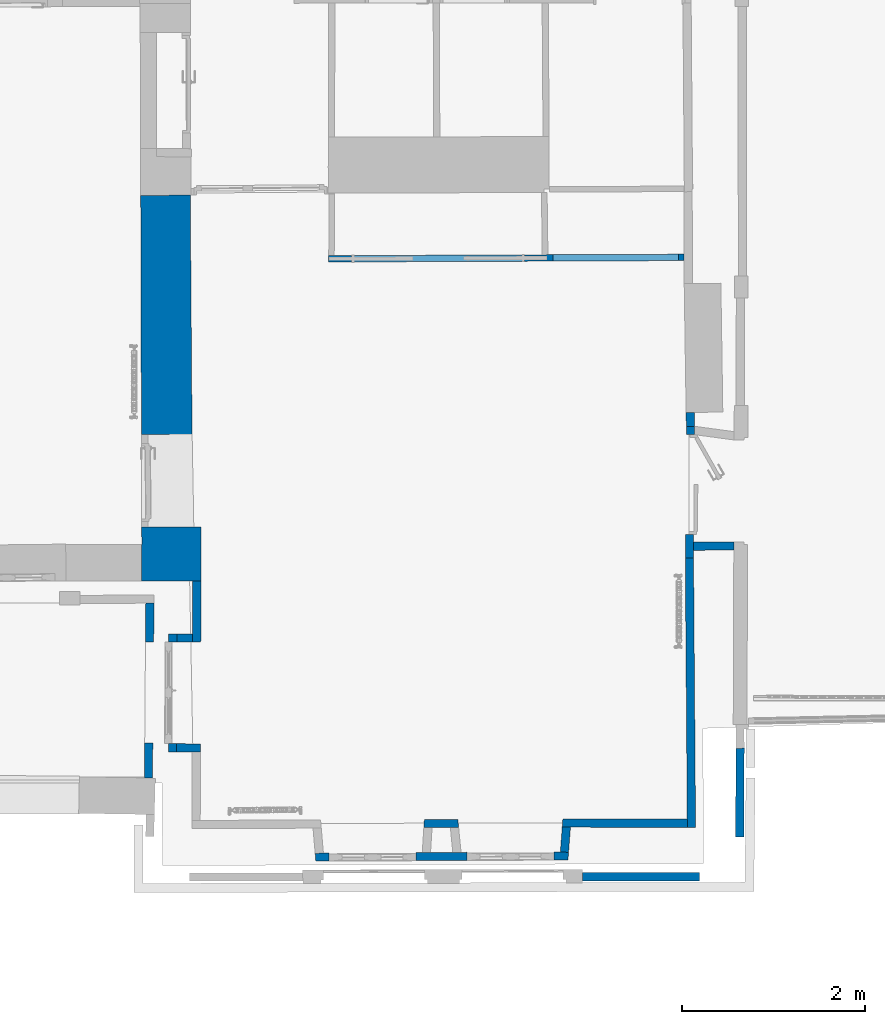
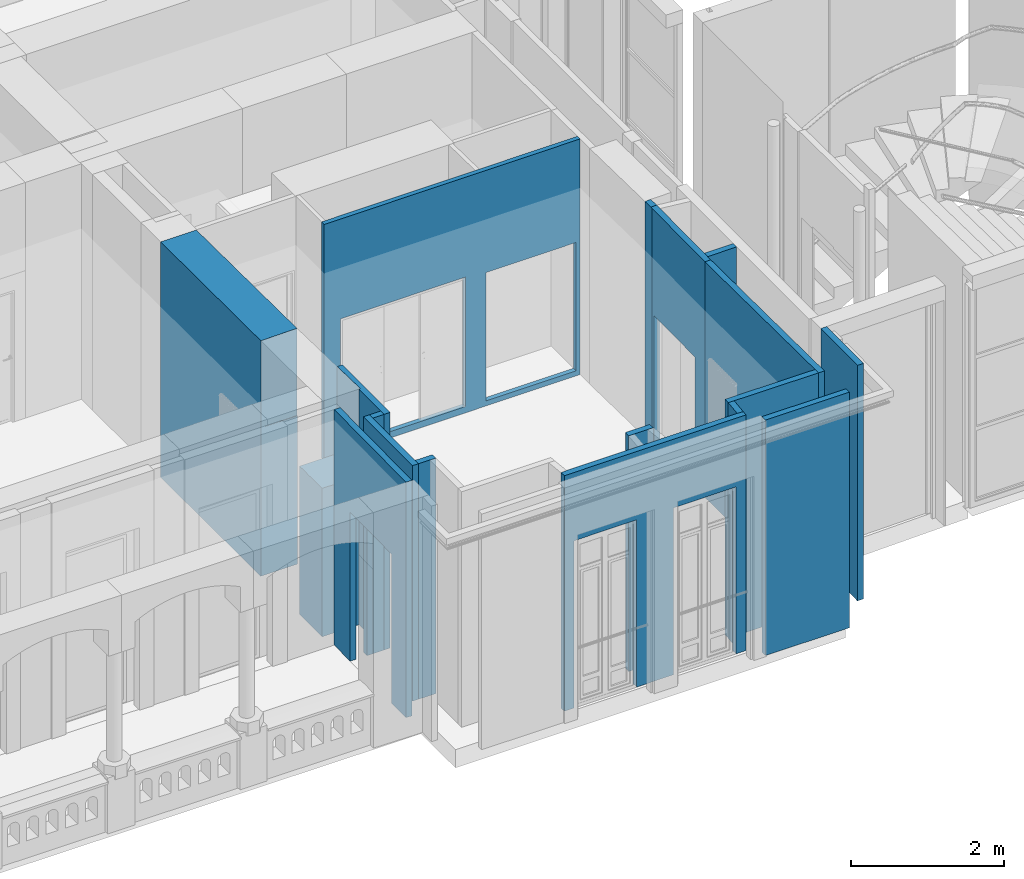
# One storey, part 11 of 66: 18 walls, 7 openings.
"""IFC2X3 building model written with IfcOpenShell, lengths in centimetres."""

from ifc_helpers import new_model, entity, si_unit, converted_unit, direction, frame, origin, origin_with_axes, place, context, subcontext, project, spatial, polyline, outline, extrude, clip, bounded_halfspace, shape, material, layer, layer_set, layer_usage, type_object, element, save


model = new_model("IFC2X3")

# Units and contexts
model_context = context("Model", 3, precision=0.0001, world=origin(), true_north=direction((0.225632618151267, 0.974212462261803, 0.0)))
body_context = subcontext(model_context, "Body", "Model", "MODEL_VIEW")
footprint_context = subcontext(model_context, "FootPrint", "Model", "MODEL_VIEW")
profile_context = subcontext(model_context, "Profile", "Model", "MODEL_VIEW")
ifc_project = project(units=[si_unit("LENGTHUNIT", "METRE", prefix="CENTI"), si_unit("AREAUNIT", "SQUARE_METRE", prefix="CENTI"), si_unit("VOLUMEUNIT", "CUBIC_METRE", prefix="CENTI"), converted_unit("PLANEANGLEUNIT", "DEGREE", entity("IfcRatioMeasure", 0.0174532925), si_unit("PLANEANGLEUNIT", "RADIAN"), dimensions=[0, 0, 0, 0, 0, 0, 0])], contexts=[model_context])

# Site, building, storey
site_placement = place(None, origin_with_axes())
site = spatial("IfcSite", under=ifc_project, at=site_placement, Name="Default Site", CompositionType="ELEMENT")
building_placement = place(site_placement, origin_with_axes())
building = spatial("IfcBuilding", under=site, at=building_placement, Name="Default Building", CompositionType="ELEMENT")
storey_placement = place(building_placement, frame((0.0, 0.0, 477.795358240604), z_axis=(0.0, 0.0, 1.0), x_axis=(1.0, 0.0, 0.0)))
storey = spatial("IfcBuildingStorey", under=building, at=storey_placement, Name="Niveau 1", CompositionType="ELEMENT", Elevation=477.795358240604)

# Wall
ifc_material = material(Name="<aucun>")
ifc_layer_1 = layer(ifc_material, 9.0)
ifc_layer_set_1 = layer_set([ifc_layer_1], Name="default")
ifc_layer_usage_1 = layer_usage(ifc_layer_set_1, "AXIS2", "POSITIVE", -4.5)
wall_type_1 = type_object("IfcWallType", Name="default 90", PredefinedType="NOTDEFINED", material=ifc_layer_set_1)
wall_1_placement = place(storey_placement, frame((301.388158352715, -902.469564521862, 0.0128503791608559), z_axis=(0.0, 0.0, 1.0), x_axis=(-0.999928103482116, 0.0119911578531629, 0.0)))
element("IfcWallStandardCase", 1, at=wall_1_placement, inside=storey, type_object=wall_type_1, material=ifc_layer_usage_1, Name="Enveloppe 776544", context=body_context, shape_type="SweptSolid", body=[
    extrude(outline(polyline([(25.9108285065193, 4.49999999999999), (-0.0848252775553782, 4.49999999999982), (-0.00280219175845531, -4.49999999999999), (26.0013140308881, -4.50000000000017), (25.9108285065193, 4.49999999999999)])), origin_with_axes(), (0.0, 0.0, 1.0), 376.102165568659),
])

# Wall, opening
ifc_layer_usage_2 = layer_usage(ifc_layer_set_1, "AXIS2", "POSITIVE", -4.5)
wall_2_placement = place(storey_placement, frame((270.934049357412, -902.104358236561, 0.0128503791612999), z_axis=(0.0, 0.0, 1.0), x_axis=(0.00193783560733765, 0.999998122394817, 0.0)))
wall_2 = element("IfcWallStandardCase", 2, at=wall_2_placement, inside=storey, type_object=wall_type_1, material=ifc_layer_usage_2, Name="Enveloppe 776754", context=body_context, shape_type="SweptSolid", body=[
    extrude(outline(polyline([(-4.45498466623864, 4.49999999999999), (-4.5454701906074, -4.49999999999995), (124.217428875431, -4.49999999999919), (124.205957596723, 4.50000000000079), (-4.45498466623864, 4.49999999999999)])), origin_with_axes(), (0.0, 0.0, 1.0), 376.102165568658),
])
opening_1_placement = place(wall_2_placement, frame((4.45498466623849, 1.70530256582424e-13, -8.88178419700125e-16), z_axis=(0.0, 0.0, 1.0), x_axis=(-1.0, -6.02209254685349e-15, 0.0)))
cartesian_point_1 = entity("IfcCartesianPoint", [0.0, 4.44089209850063e-14, 213.2])
cartesian_point_2 = entity("IfcCartesianPoint", [-110.762436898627, -4.49999999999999])
element("IfcOpeningElement", 3, at=opening_1_placement, cuts=wall_2, Name="4294966414_11", ObjectType="Opening", shapes=[
    shape(body_context, "Body", "SweptSolid", [extrude(outline(polyline([(0.0, 213.2), (0.0, 0.0), (110.762436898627, 0.0), (110.762436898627, 213.2), (0.0, 213.2)])), frame((0.0, -14.5, 0.0), z_axis=(0.0, 1.0, 0.0), x_axis=(-1.0, 0.0, 0.0)), (0.0, 0.0, 1.0), 29.0)]),
    shape(profile_context, "Profile", "GeometricCurveSet", [entity("IfcGeometricCurveSet", [entity("IfcPolyline", [cartesian_point_1, entity("IfcCartesianPoint", [0.0, 4.44089209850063e-14, 0.0]), entity("IfcCartesianPoint", [-110.762436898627, 4.44089209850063e-14, 0.0]), entity("IfcCartesianPoint", [-110.762436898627, 4.44089209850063e-14, 213.2]), cartesian_point_1])])]),
    shape(footprint_context, "FootPrint", "GeometricCurveSet", [entity("IfcGeometricCurveSet", [entity("IfcPolyline", [cartesian_point_2, entity("IfcCartesianPoint", [0.0, -4.49999999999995]), entity("IfcCartesianPoint", [0.0, 4.50000000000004]), entity("IfcCartesianPoint", [-110.762436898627, 4.50000000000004]), cartesian_point_2])])]),
])

# Walls
ifc_layer_usage_3 = layer_usage(ifc_layer_set_1, "AXIS2", "POSITIVE", -4.5)
wall_3_placement = place(storey_placement, frame((297.290465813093, -777.900297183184, 0.0128503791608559), z_axis=(0.0, 0.0, 1.0), x_axis=(0.00287801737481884, 0.999995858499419, 0.0)))
element("IfcWallStandardCase", 4, at=wall_3_placement, inside=storey, type_object=wall_type_1, material=ifc_layer_usage_3, Name="Enveloppe 776717", context=body_context, shape_type="Clipping", body=[
    clip(clip(extrude(outline(polyline([(-9.01991089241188, 4.49999999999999), (-8.99997792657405, -4.49999999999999), (116.46064889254, -4.49999999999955), (116.439547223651, 3.39532888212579), (57.4431789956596, 2.13903515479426), (57.4363832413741, 4.50028780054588), (-9.01991089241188, 4.49999999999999)])), frame((0.0, 0.0, 8.88178419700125e-14), z_axis=(0.0, 0.0, 1.0), x_axis=(1.0, 0.0, 0.0)), (0.0, 0.0, 1.0), 376.102165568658), bounded_halfspace(frame((116.439547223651, 3.39532888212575, 237.0), z_axis=(0.0, 0.0, 1.0), x_axis=(0.00267266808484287, -0.999996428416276, 0.0)), True, frame((116.439547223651, 3.39532888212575, 237.0), z_axis=(0.0, 0.0, 1.0), x_axis=(1.0, 0.0, 0.0)), polyline([(-58.9968530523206, -1.25629512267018), (0.0, 0.0), (0.0211016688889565, -7.89532888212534), (-58.9791090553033, -7.89532888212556), (-58.9968530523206, -1.25629512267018)]))), bounded_halfspace(frame((57.3363840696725, 2.13676996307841, 237.0), z_axis=(0.0, 0.0, -1.0), x_axis=(0.999773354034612, 0.0212894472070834, 0.0)), True, frame((57.3363840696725, 2.13676996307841, 237.0), z_axis=(0.0, 0.0, 1.0), x_axis=(1.0, 0.0, 0.0)), polyline([(0.0, 0.0), (0.106310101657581, 0.00226379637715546), (0.0999999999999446, 2.36323003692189), (0.0, 2.36323003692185), (0.0, 0.0)]))),
])
ifc_layer_usage_4 = layer_usage(ifc_layer_set_1, "AXIS2", "POSITIVE", -4.5)
wall_4_placement = place(storey_placement, frame((301.76752971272, -782.413189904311, 0.0128503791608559), z_axis=(0.0, 0.0, 1.0), x_axis=(-0.999999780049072, 0.000663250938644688, 0.0)))
element("IfcWallStandardCase", 5, at=wall_4_placement, inside=storey, type_object=wall_type_1, material=ifc_layer_usage_4, Name="Enveloppe 776753", context=body_context, shape_type="SweptSolid", body=[
    extrude(outline(polyline([(26.107237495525, 4.49999999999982), (9.00002207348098, 4.49999999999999), (8.98008910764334, -4.50000000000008), (26.095766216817, -4.50000000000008), (26.107237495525, 4.49999999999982)])), frame((0.0, 0.0, 1.77635683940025e-13), z_axis=(0.0, 0.0, 1.0), x_axis=(1.0, 0.0, 0.0)), (0.0, 0.0, 1.0), 376.102165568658),
])
ifc_layer_usage_5 = layer_usage(ifc_layer_set_1, "AXIS2", "POSITIVE", -4.5)
wall_5_placement = place(storey_placement, frame((832.108415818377, -984.430761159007, 0.0128503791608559), z_axis=(0.0, 0.0, 1.0), x_axis=(-0.999999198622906, 0.00126599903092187, 0.0)))
element("IfcWallStandardCase", 6, at=wall_5_placement, inside=storey, type_object=wall_type_1, material=ifc_layer_usage_5, Name="Enveloppe 775823", context=body_context, shape_type="SweptSolid", body=[
    extrude(outline(polyline([(136.293836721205, 4.50000000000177), (-0.0795558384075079, 4.49999999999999), (-2.48689957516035e-12, -4.49999999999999), (135.617898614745, -4.49999999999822), (136.293836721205, 4.50000000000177)])), origin_with_axes(), (0.0, 0.0, 1.0), 376.102165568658),
])
ifc_layer_usage_6 = layer_usage(ifc_layer_set_1, "AXIS2", "POSITIVE", -4.5)
wall_6_placement = place(storey_placement, frame((698.1700718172, -1016.93438659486, 0.0128503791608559), z_axis=(0.0, 0.0, 1.0), x_axis=(0.0761556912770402, 0.997095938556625, 0.0)))
element("IfcWallStandardCase", 7, at=wall_6_placement, inside=storey, type_object=wall_type_1, material=ifc_layer_usage_6, Name="Enveloppe 775859", context=body_context, shape_type="SweptSolid", body=[
    extrude(outline(polyline([(1.00354731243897, 4.50000000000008), (1.00354731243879, -4.49999999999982), (28.5904799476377, -4.49999999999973), (27.9145418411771, 4.50000000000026), (1.00354731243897, 4.50000000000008)])), frame((0.0, 0.0, 8.88178419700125e-14), z_axis=(0.0, 0.0, 1.0), x_axis=(1.0, 0.0, 0.0)), (0.0, 0.0, 1.0), 376.102165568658),
])
ifc_layer_usage_7 = layer_usage(ifc_layer_set_1, "AXIS2", "POSITIVE", -4.5)
wall_7_placement = place(storey_placement, frame((545.5248395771, -984.756762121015, 0.0128503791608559), z_axis=(0.0, 0.0, 1.0), x_axis=(0.999989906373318, 0.00449301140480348, 0.0)))
element("IfcWallStandardCase", 8, at=wall_7_placement, inside=storey, type_object=wall_type_1, material=ifc_layer_usage_7, Name="Enveloppe 776215", context=body_context, shape_type="SweptSolid", body=[
    extrude(outline(polyline([(-0.608108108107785, -4.49999999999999), (37.3471895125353, -4.49999999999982), (36.4960278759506, 4.50000000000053), (1.77635683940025e-13, 4.50000000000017), (-0.608108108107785, -4.49999999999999)])), origin_with_axes(), (0.0, 0.0, 1.0), 376.102165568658),
])
ifc_layer_usage_8 = layer_usage(ifc_layer_set_1, "AXIS2", "POSITIVE", -4.5)
wall_8_placement = place(storey_placement, frame((838.861674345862, -682.426601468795, 0.0128503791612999), z_axis=(0.0, 0.0, 1.0), x_axis=(0.999970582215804, 0.00767037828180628, 0.0)))
element("IfcWallStandardCase", 9, at=wall_8_placement, inside=storey, type_object=wall_type_1, material=ifc_layer_usage_8, Name="Enveloppe 597906", context=body_context, shape_type="SweptSolid", body=[
    extrude(outline(polyline([(0.135607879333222, -4.49999999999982), (43.9580092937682, -4.50000000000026), (44.0567982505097, 4.49999999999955), (0.282064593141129, 4.4999999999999), (0.135607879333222, -4.49999999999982)])), frame((0.0, 0.0, -8.88178419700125e-14), z_axis=(0.0, 0.0, 1.0), x_axis=(1.0, 0.0, 0.0)), (0.0, 0.0, 1.0), 376.102165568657),
])
ifc_layer_usage_9 = layer_usage(ifc_layer_set_1, "AXIS2", "POSITIVE", -4.5)
wall_9_placement = place(storey_placement, frame((835.736175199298, -559.788161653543, 0.0128503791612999), z_axis=(0.0, 0.0, 1.0), x_axis=(-0.015008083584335, 0.999887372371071, 0.0)))
element("IfcWallStandardCase", 10, at=wall_9_placement, inside=storey, type_object=wall_type_1, material=ifc_layer_usage_9, Name="Enveloppe 598279", context=body_context, shape_type="SweptSolid", body=[
    extrude(outline(polyline([(23.1097091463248, 4.49999999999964), (4.75492995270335, 4.49999999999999), (7.99631760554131, 4.42345750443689), (7.99631760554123, -4.49999999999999), (23.1097091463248, -4.49999999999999), (23.1097091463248, 4.49999999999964)])), frame((0.0, 0.0, 8.88178419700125e-14), z_axis=(0.0, 0.0, 1.0), x_axis=(1.0, 0.0, 0.0)), (0.0, 0.0, 1.0), 376.102165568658),
])

# Wall, opening
ifc_layer_usage_10 = layer_usage(ifc_layer_set_1, "AXIS2", "POSITIVE", -4.5)
wall_10_placement = place(storey_placement, frame((834.671466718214, -670.667608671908, 0.0128503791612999), z_axis=(0.0, 0.0, 1.0), x_axis=(0.00860097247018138, 0.999963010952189, 0.0)))
wall_10 = element("IfcWallStandardCase", 11, at=wall_10_placement, inside=storey, type_object=wall_type_1, material=ifc_layer_usage_10, Name="Enveloppe 93634", context=body_context, shape_type="SweptSolid", body=[
    extrude(outline(polyline([(-24.73103791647, 4.49999999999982), (-24.5854747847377, -4.49882277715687), (-16.2219365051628, -4.36353587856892), (-16.2197158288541, -4.49999999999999), (118.974810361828, -4.49999999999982), (118.984826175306, -4.42097056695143), (118.774165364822, 4.50000000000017), (-24.73103791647, 4.49999999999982)])), frame((0.0, 0.0, -1.77635683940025e-13), z_axis=(0.0, 0.0, 1.0), x_axis=(1.0, 0.0, 0.0)), (0.0, 0.0, 1.0), 376.102165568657),
])
opening_2_placement = place(wall_10_placement, frame((1.08888984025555, 2.27373675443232e-13, -1.77635683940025e-13), z_axis=(0.0, 0.0, 1.0), x_axis=(-1.0, -3.963843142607e-15, 0.0)))
cartesian_point_3 = entity("IfcCartesianPoint", [0.0, 1.77635683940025e-13, 208.0])
cartesian_point_4 = entity("IfcCartesianPoint", [-108.813930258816, -4.49999999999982])
element("IfcOpeningElement", 12, at=opening_2_placement, cuts=wall_10, Name="4294966402_11", ObjectType="Opening", shapes=[
    shape(body_context, "Body", "SweptSolid", [extrude(outline(polyline([(0.0, 208.0), (0.0, 0.0), (108.813930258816, 0.0), (108.813930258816, 208.0), (0.0, 208.0)])), frame((0.0, -14.5, 0.0), z_axis=(0.0, 1.0, 0.0), x_axis=(-1.0, 0.0, 0.0)), (0.0, 0.0, 1.0), 29.0)]),
    shape(profile_context, "Profile", "GeometricCurveSet", [entity("IfcGeometricCurveSet", [entity("IfcPolyline", [cartesian_point_3, entity("IfcCartesianPoint", [0.0, 1.77635683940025e-13, 0.0]), entity("IfcCartesianPoint", [-108.813930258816, 3.5527136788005e-13, 0.0]), entity("IfcCartesianPoint", [-108.813930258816, 3.5527136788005e-13, 208.0]), cartesian_point_3])])]),
    shape(footprint_context, "FootPrint", "GeometricCurveSet", [entity("IfcGeometricCurveSet", [entity("IfcPolyline", [cartesian_point_4, entity("IfcCartesianPoint", [0.0, -4.49999999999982]), entity("IfcCartesianPoint", [0.0, 4.50000000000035]), entity("IfcCartesianPoint", [-108.813930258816, 4.50000000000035]), cartesian_point_4])])]),
])

# Wall
ifc_layer_usage_11 = layer_usage(ifc_layer_set_1, "AXIS2", "POSITIVE", -4.5)
wall_11_placement = place(storey_placement, frame((836.614052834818, -979.905805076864, 0.0128503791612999), z_axis=(0.0, 0.0, 1.0), x_axis=(-0.00757323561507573, 0.999971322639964, 0.0)))
element("IfcWallStandardCase", 13, at=wall_11_placement, inside=storey, type_object=wall_type_1, material=ifc_layer_usage_11, Name="Enveloppe 93682", context=body_context, shape_type="SweptSolid", body=[
    extrude(outline(polyline([(284.589018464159, 4.49999999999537), (-8.99123147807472, 4.50000000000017), (-9.07078731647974, -4.49999999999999), (284.589018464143, -4.50000000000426), (284.589018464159, 4.49999999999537)])), origin_with_axes(), (0.0, 0.0, 1.0), 376.102165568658),
])

# Wall, openings
ifc_layer_usage_12 = layer_usage(ifc_layer_set_1, "AXIS2", "POSITIVE", -4.5)
wall_12_placement = place(storey_placement, frame((431.347521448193, -1021.27013066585, 0.0128503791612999), z_axis=(0.0, 0.0, 1.0), x_axis=(0.999989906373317, 0.00449301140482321, 0.0)))
wall_12 = element("IfcWallStandardCase", 14, at=wall_12_placement, inside=storey, type_object=wall_type_1, material=ifc_layer_usage_12, Name="Enveloppe 775896", context=body_context, shape_type="SweptSolid", body=[
    extrude(outline(polyline([(145.200735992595, 4.49999999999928), (111.299680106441, 4.49999999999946), (4.14918639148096, 4.49999999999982), (-4.82124975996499, 3.77111369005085), (-4.14918639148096, -4.50000000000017), (111.29938252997, -4.49999866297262), (145.200735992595, -4.50000000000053), (270.736229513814, -4.5000000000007), (271.405605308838, 3.77428602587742), (262.434911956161, 4.49999999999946), (145.200735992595, 4.49999999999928)])), origin_with_axes(), (0.0, 0.0, 1.0), 376.102165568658),
])
opening_3_placement = place(wall_12_placement, frame((160.585489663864, -4.54747350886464e-13, 1.77635683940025e-13), z_axis=(0.0, 0.0, 1.0), x_axis=(1.0, -3.41220107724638e-15, 0.0)))
cartesian_point_5 = entity("IfcCartesianPoint", [0.0, 0.0, 266.5])
cartesian_point_6 = entity("IfcCartesianPoint", [95.0150468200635, 4.49999999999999])
element("IfcOpeningElement", 15, at=opening_3_placement, cuts=wall_12, Name="4294966417_11", ObjectType="Opening", shapes=[
    shape(body_context, "Body", "SweptSolid", [extrude(outline(polyline([(0.0, 266.5), (0.0, 8.88178419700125e-14), (95.0150468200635, 8.88178419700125e-14), (95.0150468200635, 266.5), (0.0, 266.5)])), frame((0.0, 14.5, 0.0), z_axis=(0.0, -1.0, 0.0), x_axis=(1.0, 0.0, 0.0)), (0.0, 0.0, 1.0), 29.0)]),
    shape(profile_context, "Profile", "GeometricCurveSet", [entity("IfcGeometricCurveSet", [entity("IfcPolyline", [cartesian_point_5, entity("IfcCartesianPoint", [0.0, 0.0, 8.88178419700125e-14]), entity("IfcCartesianPoint", [95.0150468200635, -1.77635683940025e-13, 8.88178419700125e-14]), entity("IfcCartesianPoint", [95.0150468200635, -1.77635683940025e-13, 266.5]), cartesian_point_5])])]),
    shape(footprint_context, "FootPrint", "GeometricCurveSet", [entity("IfcGeometricCurveSet", [entity("IfcPolyline", [cartesian_point_6, entity("IfcCartesianPoint", [0.0, 4.49999999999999]), entity("IfcCartesianPoint", [8.88178419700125e-14, -4.50000000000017]), entity("IfcCartesianPoint", [95.0150468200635, -4.50000000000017]), cartesian_point_6])])]),
])
opening_4_placement = place(wall_12_placement, frame((10.4769733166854, 0.0, 1.77635683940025e-13), z_axis=(0.0, 0.0, 1.0), x_axis=(1.0, -2.81111939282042e-15, 0.0)))
cartesian_point_7 = entity("IfcCartesianPoint", [0.0, 0.0, 267.0])
cartesian_point_8 = entity("IfcCartesianPoint", [94.6132473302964, 4.50000000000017])
element("IfcOpeningElement", 16, at=opening_4_placement, cuts=wall_12, Name="4294966416_11", ObjectType="Opening", shapes=[
    shape(body_context, "Body", "SweptSolid", [extrude(outline(polyline([(0.0, 267.0), (0.0, 8.88178419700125e-14), (94.6132473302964, 8.88178419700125e-14), (94.6132473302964, 267.0), (0.0, 267.0)])), frame((0.0, 14.5, 0.0), z_axis=(0.0, -1.0, 0.0), x_axis=(1.0, 0.0, 0.0)), (0.0, 0.0, 1.0), 29.0)]),
    shape(profile_context, "Profile", "GeometricCurveSet", [entity("IfcGeometricCurveSet", [entity("IfcPolyline", [cartesian_point_7, entity("IfcCartesianPoint", [0.0, 0.0, 8.88178419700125e-14]), entity("IfcCartesianPoint", [94.6132473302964, 1.77635683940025e-13, 8.88178419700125e-14]), entity("IfcCartesianPoint", [94.6132473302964, 1.77635683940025e-13, 267.0]), cartesian_point_7])])]),
    shape(footprint_context, "FootPrint", "GeometricCurveSet", [entity("IfcGeometricCurveSet", [entity("IfcPolyline", [cartesian_point_8, entity("IfcCartesianPoint", [0.0, 4.50000000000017]), entity("IfcCartesianPoint", [8.88178419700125e-14, -4.49999999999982]), entity("IfcCartesianPoint", [94.6132473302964, -4.49999999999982]), cartesian_point_8])])]),
])

ifc_layer_2 = layer(ifc_material, 7.0)
ifc_layer_set_2 = layer_set([ifc_layer_2], Name="default")
ifc_layer_usage_13 = layer_usage(ifc_layer_set_2, "AXIS2", "POSITIVE", -3.5)
wall_type_2 = type_object("IfcWallType", Name="default 70", PredefinedType="NOTDEFINED", material=ifc_layer_set_2)
wall_13_placement = place(storey_placement, frame((447.273984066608, -369.153703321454, 0.0128503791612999), z_axis=(0.0, 0.0, 1.0), x_axis=(0.999991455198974, 0.00413394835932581, 0.0)))
wall_13 = element("IfcWallStandardCase", 17, at=wall_13_placement, inside=storey, type_object=wall_type_2, material=ifc_layer_usage_13, Name="Enveloppe 120794", context=body_context, shape_type="SweptSolid", body=[
    extrude(outline(polyline([(226.690156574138, 3.50041339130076), (-5.97326257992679, 3.50000000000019), (-6.02181165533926, -3.49999999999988), (226.690154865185, -3.50000000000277), (381.429798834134, -3.50000000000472), (381.439923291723, 3.49999999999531), (226.690156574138, 3.50041339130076)])), frame((0.0, 0.0, -1.77635683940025e-13), z_axis=(0.0, 0.0, 1.0), x_axis=(1.0, 0.0, 0.0)), (0.0, 0.0, 1.0), 376.102165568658),
])
opening_5_placement = place(wall_13_placement, frame((238.694610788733, -2.95585778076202e-12, 7.98714962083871), z_axis=(0.0, 0.0, 1.0), x_axis=(-1.0, 1.2418885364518e-14, 0.0)))
cartesian_point_9 = entity("IfcCartesianPoint", [-8.88178419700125e-14, 0.0, 205.0])
cartesian_point_10 = entity("IfcCartesianPoint", [-136.644024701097, -3.50000000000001])
element("IfcOpeningElement", 18, at=opening_5_placement, cuts=wall_13, Name="Baie 121126", ObjectType="Opening", shapes=[
    shape(body_context, "Body", "SweptSolid", [extrude(outline(polyline([(8.88178419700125e-14, 205.0), (0.0, 0.0), (136.644024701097, 0.0), (136.644024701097, 205.0), (8.88178419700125e-14, 205.0)])), frame((0.0, -13.5, 0.0), z_axis=(0.0, 1.0, 0.0), x_axis=(-1.0, 0.0, 0.0)), (0.0, 0.0, 1.0), 27.0)]),
    shape(profile_context, "Profile", "GeometricCurveSet", [entity("IfcGeometricCurveSet", [entity("IfcPolyline", [cartesian_point_9, entity("IfcCartesianPoint", [0.0, 0.0, 0.0]), entity("IfcCartesianPoint", [-136.644024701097, 0.0, 0.0]), entity("IfcCartesianPoint", [-136.644024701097, 0.0, 205.0]), cartesian_point_9])])]),
    shape(footprint_context, "FootPrint", "GeometricCurveSet", [entity("IfcGeometricCurveSet", [entity("IfcPolyline", [cartesian_point_10, entity("IfcCartesianPoint", [0.0, -3.49999999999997]), entity("IfcCartesianPoint", [-1.77635683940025e-13, 3.50000000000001]), entity("IfcCartesianPoint", [-136.644024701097, 3.49999999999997]), cartesian_point_10])])]),
])
opening_6_placement = place(wall_13_placement, frame((18.8541460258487, -3.41060513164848e-13, 9.98714962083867), z_axis=(0.0, 0.0, 1.0), x_axis=(1.0, -1.2417150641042e-14, 0.0)))
cartesian_point_11 = entity("IfcCartesianPoint", [0.0, 4.44089209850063e-14, 206.703080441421])
cartesian_point_12 = entity("IfcCartesianPoint", [188.793092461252, 3.50000000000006])
element("IfcOpeningElement", 19, at=opening_6_placement, cuts=wall_13, Name="4294966394_11", ObjectType="Opening", shapes=[
    shape(body_context, "Body", "SweptSolid", [extrude(outline(polyline([(-8.88178419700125e-14, 206.703080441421), (-8.88178419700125e-14, 0.0), (188.793092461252, 0.0), (188.793092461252, 206.703080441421), (-8.88178419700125e-14, 206.703080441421)])), frame((0.0, 13.5, 0.0), z_axis=(0.0, -1.0, 0.0), x_axis=(1.0, 0.0, 0.0)), (0.0, 0.0, 1.0), 27.0)]),
    shape(profile_context, "Profile", "GeometricCurveSet", [entity("IfcGeometricCurveSet", [entity("IfcPolyline", [cartesian_point_11, entity("IfcCartesianPoint", [0.0, 4.44089209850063e-14, 0.0]), entity("IfcCartesianPoint", [188.793092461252, 4.44089209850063e-14, 0.0]), entity("IfcCartesianPoint", [188.793092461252, 4.44089209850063e-14, 206.703080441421]), cartesian_point_11])])]),
    shape(footprint_context, "FootPrint", "GeometricCurveSet", [entity("IfcGeometricCurveSet", [entity("IfcPolyline", [cartesian_point_12, entity("IfcCartesianPoint", [-8.88178419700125e-14, 3.50000000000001]), entity("IfcCartesianPoint", [0.0, -3.49999999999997]), entity("IfcCartesianPoint", [188.793092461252, -3.49999999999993]), cartesian_point_12])])]),
])

# Walls
ifc_layer_usage_14 = layer_usage(ifc_layer_set_1, "AXIS2", "POSITIVE", -4.5)
wall_type_3 = type_object("IfcWallType", Name="default 90", PredefinedType="NOTDEFINED", material=ifc_layer_set_1)
wall_14_placement = place(storey_placement, frame((889.23751155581, -999.612448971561, 0.0128503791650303), z_axis=(0.0, 0.0, 1.0), x_axis=(0.00565295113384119, 0.99998402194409, 0.0)))
element("IfcWallStandardCase", 20, at=wall_14_placement, inside=storey, type_object=wall_type_3, material=ifc_layer_usage_14, Name="Enveloppe 533221", context=body_context, shape_type="SweptSolid", body=[
    extrude(outline(polyline([(0.0736361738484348, 4.49999999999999), (0.0736361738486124, -4.50000000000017), (97.0175605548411, -4.49999999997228), (96.7720267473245, 4.4999999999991), (0.0736361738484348, 4.49999999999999)])), frame((0.0, 0.0, -4.08562073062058e-12), z_axis=(0.0, 0.0, 1.0), x_axis=(1.0, 0.0, 0.0)), (0.0, 0.0, 1.0), 376.102165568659),
])
ifc_layer_usage_15 = layer_usage(ifc_layer_set_1, "AXIS2", "POSITIVE", -4.5)
wall_15_placement = place(storey_placement, frame((718.13340458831, -1042.78280414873, 0.0128503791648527), z_axis=(0.0, 0.0, 1.0), x_axis=(0.99999978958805, 0.000648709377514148, 0.0)))
element("IfcWallStandardCase", 21, at=wall_15_placement, inside=storey, type_object=wall_type_3, material=ifc_layer_usage_15, Name="Enveloppe 424197", context=body_context, shape_type="SweptSolid", body=[
    extrude(outline(polyline([(0.00431217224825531, 4.49999999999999), (0.0172596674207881, -4.49999999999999), (127.092963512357, -4.50000000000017), (127.092963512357, 4.49999999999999), (0.00431217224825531, 4.49999999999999)])), frame((0.0, 0.0, -1.77635683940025e-13), z_axis=(0.0, 0.0, 1.0), x_axis=(1.0, 0.0, 0.0)), (0.0, 0.0, 1.0), 376.102165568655),
])

# Wall, opening
ifc_layer_usage_16 = layer_usage(ifc_layer_set_1, "AXIS2", "POSITIVE", -4.5)
wall_16_placement = place(storey_placement, frame((244.673753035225, -935.333818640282, 0.012850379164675), z_axis=(0.0, 0.0, 1.0), x_axis=(0.00862806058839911, 0.999962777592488, 0.0)))
wall_16 = element("IfcWallStandardCase", 22, at=wall_16_placement, inside=storey, type_object=wall_type_3, material=ifc_layer_usage_16, Name="Enveloppe 424129", context=body_context, shape_type="SweptSolid", body=[
    extrude(outline(polyline([(0.313299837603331, 4.50000000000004), (0.244569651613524, -4.50000000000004), (190.931821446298, -4.50000000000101), (190.782855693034, 4.49999999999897), (0.313299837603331, 4.50000000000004)])), frame((0.0, 0.0, -8.88178419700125e-14), z_axis=(0.0, 0.0, 1.0), x_axis=(1.0, 0.0, 0.0)), (0.0, 0.0, 1.0), 376.102165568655),
])
opening_7_placement = place(wall_16_placement, frame((38.1554137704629, -3.12638803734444e-13, 0.0), z_axis=(0.0, 0.0, 1.0), x_axis=(1.0, -5.7141791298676e-15, 0.0)))
cartesian_point_13 = entity("IfcCartesianPoint", [0.0, 4.44089209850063e-14, 238.0])
cartesian_point_14 = entity("IfcCartesianPoint", [110.299252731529, 4.50000000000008])
element("IfcOpeningElement", 23, at=opening_7_placement, cuts=wall_16, Name="Baie 442189", ObjectType="Opening", shapes=[
    shape(body_context, "Body", "SweptSolid", [extrude(outline(polyline([(0.0, 238.0), (0.0, 0.0), (110.299252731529, 0.0), (110.299252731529, 238.0), (0.0, 238.0)])), frame((0.0, 14.5, 0.0), z_axis=(0.0, -1.0, 0.0), x_axis=(1.0, 0.0, 0.0)), (0.0, 0.0, 1.0), 29.0)]),
    shape(profile_context, "Profile", "GeometricCurveSet", [entity("IfcGeometricCurveSet", [entity("IfcPolyline", [cartesian_point_13, entity("IfcCartesianPoint", [0.0, 4.44089209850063e-14, 0.0]), entity("IfcCartesianPoint", [110.299252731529, 4.44089209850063e-14, 0.0]), entity("IfcCartesianPoint", [110.299252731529, 4.44089209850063e-14, 238.0]), cartesian_point_13])])]),
    shape(footprint_context, "FootPrint", "GeometricCurveSet", [entity("IfcGeometricCurveSet", [entity("IfcPolyline", [cartesian_point_14, entity("IfcCartesianPoint", [0.0, 4.50000000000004]), entity("IfcCartesianPoint", [0.0, -4.49999999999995]), entity("IfcCartesianPoint", [110.299252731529, -4.49999999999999]), cartesian_point_14])])]),
])

# Walls
ifc_layer_3 = layer(ifc_material, 54.0)
ifc_layer_set_3 = layer_set([ifc_layer_3], Name="default")
ifc_layer_usage_17 = layer_usage(ifc_layer_set_3, "AXIS2", "POSITIVE", -27.0)
wall_type_4 = type_object("IfcWallType", Name="default 540", PredefinedType="NOTDEFINED", material=ifc_layer_set_3)
wall_17_placement = place(storey_placement, frame((264.112674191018, -560.80607206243, 0.0128503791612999), z_axis=(0.0, 0.0, 1.0), x_axis=(-0.00303669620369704, 0.999995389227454, 0.0)))
element("IfcWallStandardCase", 24, at=wall_17_placement, inside=storey, type_object=wall_type_4, material=ifc_layer_usage_17, Name="Enveloppe 93014", context=body_context, shape_type="Clipping", body=[
    clip(clip(clip(clip(clip(extrude(outline(polyline([(260.960973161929, 27.0000000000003), (-0.0193427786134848, 27.0014977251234), (8.88178419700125e-14, 25.7436390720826), (0.0, -28.1697110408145), (260.960973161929, -27.014445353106), (260.960973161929, 27.0000000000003)])), frame((0.0, 0.0, -4.44089209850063e-13), z_axis=(0.0, 0.0, 1.0), x_axis=(1.0, 0.0, 0.0)), (0.0, 0.0, 1.0), 376.102165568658), bounded_halfspace(frame((-0.0193427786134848, 27.0014977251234, 237.0), z_axis=(0.0, 0.0, 1.0), x_axis=(0.99997778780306, -0.00666512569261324, 0.0)), True, frame((-0.0193427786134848, 27.0014977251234, 237.0), z_axis=(0.0, 0.0, 1.0), x_axis=(1.0, 0.0, 0.0)), polyline([(0.0, 0.0), (0.0193427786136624, -0.000128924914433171), (0.0193427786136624, -1.25785865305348), (0.0, 0.0)]))), bounded_halfspace(frame((0.82847663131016, -28.132100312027, 237.0), z_axis=(0.0, 0.0, -1.0), x_axis=(-1.0, -2.92382871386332e-13, 0.0)), True, frame((0.82847663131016, -28.132100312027, 237.0), z_axis=(0.0, 0.0, 1.0), x_axis=(1.0, 0.0, 0.0)), polyline([(-0.82847663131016, -0.0376107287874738), (7.6673460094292, -8.88178419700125e-14), (-0.0345016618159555, 0.0), (-0.677492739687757, 41.8136353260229), (-0.82847663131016, 41.8120047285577), (-0.82847663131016, -0.0376107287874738)]))), bounded_halfspace(frame((8.88178419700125e-14, 25.7436390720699, 237.0), z_axis=(0.0, 0.0, -1.0), x_axis=(1.61723932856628e-14, -1.0, 0.0)), True, frame((8.88178419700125e-14, 25.7436390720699, 237.0), z_axis=(0.0, 0.0, 1.0), x_axis=(1.0, 0.0, 0.0)), polyline([(0.0, -2.24363907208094), (0.793974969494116, -53.8757393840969), (0.82847663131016, -53.8757393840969), (8.88178419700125e-14, 4.44089209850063e-14), (0.0, -2.24363907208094)]))), bounded_halfspace(frame((8.88178419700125e-14, 23.499999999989, 237.0), z_axis=(0.0, 0.0, -1.0), x_axis=(-3.12948451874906e-14, -1.0, 0.0)), True, frame((8.88178419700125e-14, 23.499999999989, 237.0), z_axis=(0.0, 0.0, 1.0), x_axis=(1.0, 0.0, 0.0)), polyline([(-8.88178419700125e-14, -1.81962905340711), (0.027976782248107, -1.81932690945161), (0.0, 0.0), (-8.88178419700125e-14, -1.81962905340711)]))), bounded_halfspace(frame((-8.88178419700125e-14, 20.0, 237.0), z_axis=(0.0, 0.0, -1.0), x_axis=(9.58217880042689e-15, -1.0, 0.0)), True, frame((-8.88178419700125e-14, 20.0, 237.0), z_axis=(0.0, 0.0, 1.0), x_axis=(1.0, 0.0, 0.0)), polyline([(8.88178419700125e-14, -6.32009558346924), (0.150983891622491, -6.31846498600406), (0.0279767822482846, 1.68067309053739), (8.88178419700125e-14, 1.68037094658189), (8.88178419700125e-14, -6.32009558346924)]))),
])
ifc_layer_4 = layer(ifc_material, 59.0)
ifc_layer_set_4 = layer_set([ifc_layer_4], Name="default")
ifc_layer_usage_18 = layer_usage(ifc_layer_set_4, "AXIS2", "POSITIVE", -29.5)
wall_type_5 = type_object("IfcWallType", Name="default 590", PredefinedType="NOTDEFINED", material=ifc_layer_set_4)
wall_18_placement = place(storey_placement, frame((237.442839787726, -690.939799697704, 0.0128503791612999), z_axis=(0.0, 0.0, 1.0), x_axis=(0.999999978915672, -0.000205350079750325, 0.0)))
element("IfcWallStandardCase", 25, at=wall_18_placement, inside=storey, type_object=wall_type_5, material=ifc_layer_usage_18, Name="Enveloppe 128173", context=body_context, shape_type="SweptSolid", body=[
    extrude(outline(polyline([(-0.0691532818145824, 10.5), (-0.0691532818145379, -29.4999999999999), (30.3725463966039, -29.4999999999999), (64.5190387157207, -29.4999999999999), (64.6767266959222, 29.5000000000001), (30.3725463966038, 29.5000000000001), (-0.0307524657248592, 29.5000000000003), (0.0308467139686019, 10.5000205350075), (-0.0691532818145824, 10.5)])), frame((0.0, 0.0, -3.5527136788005e-13), z_axis=(0.0, 0.0, 1.0), x_axis=(1.0, 0.0, 0.0)), (0.0, 0.0, 1.0), 237.0),
])

save(model, "model.ifc")
